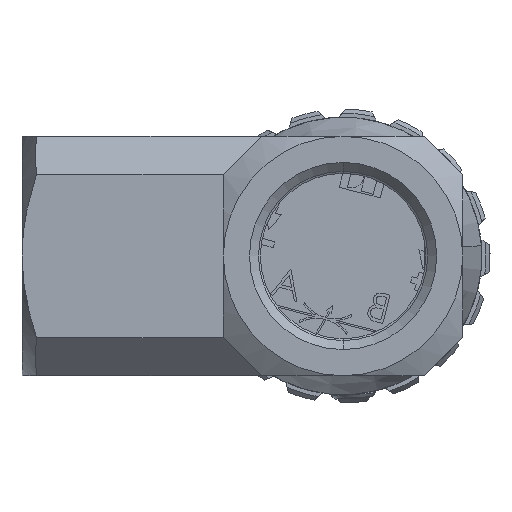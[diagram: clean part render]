
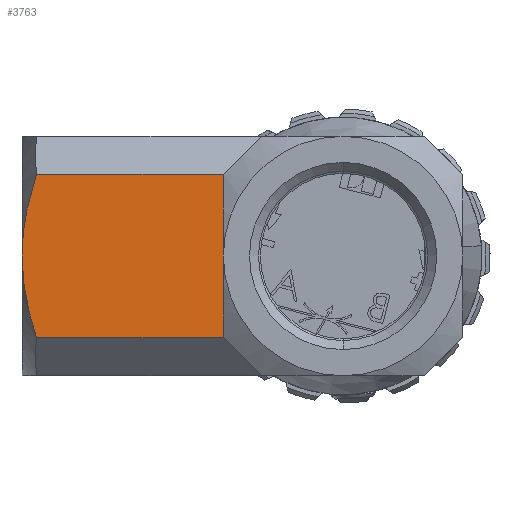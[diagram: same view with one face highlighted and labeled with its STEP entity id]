
A CAD part, front view. The second image highlights one B-rep face of the part: STEP entity #3763.
In plain terms, the highlighted planar face has unit normal (0, -1, 0).
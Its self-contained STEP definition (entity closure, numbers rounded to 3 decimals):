
#57 = DIRECTION ( 'NONE',  ( 0., 0., -1. ) ) ;
#447 = EDGE_LOOP ( 'NONE', ( #30491, #30417, #12335, #15266, #19699 ) ) ;
#1492 = B_SPLINE_CURVE_WITH_KNOTS ( 'NONE', 3,
 ( #26756, #31804, #18980, #11302, #29336, #13852, #31916, #16439 ),
 .UNSPECIFIED., .F., .F.,
 ( 4, 2, 2, 4 ),
 ( 0.028, 0.032, 0.034, 0.036 ),
 .UNSPECIFIED. ) ;
#1811 = CARTESIAN_POINT ( 'NONE',  ( -29.5, -11., 0. ) ) ;
#2551 = AXIS2_PLACEMENT_3D ( 'NONE', #11150, #29197, #13716 ) ;
#3000 = EDGE_CURVE ( 'NONE', #10712, #27323, #1492, .T. ) ;
#3763 = ADVANCED_FACE ( 'NONE', ( #21842 ), #29089, .T. ) ;
#5508 = CARTESIAN_POINT ( 'NONE',  ( -29.5, -11., 7.5 ) ) ;
#5735 = EDGE_CURVE ( 'NONE', #12065, #25434, #16189, .T. ) ;
#5776 = CARTESIAN_POINT ( 'NONE',  ( -11., -11., -7.5 ) ) ;
#7015 = CARTESIAN_POINT ( 'NONE',  ( -11., -11., 7.5 ) ) ;
#8670 = B_SPLINE_CURVE_WITH_KNOTS ( 'NONE', 3,
 ( #1811, #17254, #25104, #9618, #27653, #12214 ),
 .UNSPECIFIED., .F., .F.,
 ( 4, 2, 4 ),
 ( 0.036, 0.04, 0.043 ),
 .UNSPECIFIED. ) ;
#9618 = CARTESIAN_POINT ( 'NONE',  ( -28.898, -11., -5.043 ) ) ;
#10712 = VERTEX_POINT ( 'NONE', #18321 ) ;
#11150 = CARTESIAN_POINT ( 'NONE',  ( -29.5, -11., 11. ) ) ;
#11302 = CARTESIAN_POINT ( 'NONE',  ( -29.248, -11., 3.185 ) ) ;
#12065 = VERTEX_POINT ( 'NONE', #7015 ) ;
#12214 = CARTESIAN_POINT ( 'NONE',  ( -28.164, -11., -7.5 ) ) ;
#12335 = ORIENTED_EDGE ( 'NONE', *, *, #31970, .T. ) ;
#13716 = DIRECTION ( 'NONE',  ( 0., 0., -1. ) ) ;
#13852 = CARTESIAN_POINT ( 'NONE',  ( -29.467, -11., 1.283 ) ) ;
#15266 = ORIENTED_EDGE ( 'NONE', *, *, #21894, .T. ) ;
#15305 = VERTEX_POINT ( 'NONE', #24106 ) ;
#16189 = LINE ( 'NONE', #18014, #23114 ) ;
#16439 = CARTESIAN_POINT ( 'NONE',  ( -29.5, -11., 0. ) ) ;
#17254 = CARTESIAN_POINT ( 'NONE',  ( -29.5, -11., -1.278 ) ) ;
#18014 = CARTESIAN_POINT ( 'NONE',  ( -11., -11., -11. ) ) ;
#18321 = CARTESIAN_POINT ( 'NONE',  ( -28.164, -11., 7.5 ) ) ;
#18980 = CARTESIAN_POINT ( 'NONE',  ( -28.894, -11., 5.058 ) ) ;
#19699 = ORIENTED_EDGE ( 'NONE', *, *, #5735, .F. ) ;
#21842 = FACE_OUTER_BOUND ( 'NONE', #447, .T. ) ;
#21894 = EDGE_CURVE ( 'NONE', #15305, #25434, #25643, .T. ) ;
#21963 = VECTOR ( 'NONE', #26114, 1000. ) ;
#23114 = VECTOR ( 'NONE', #57, 1000. ) ;
#24106 = CARTESIAN_POINT ( 'NONE',  ( -28.164, -11., -7.5 ) ) ;
#25104 = CARTESIAN_POINT ( 'NONE',  ( -29.369, -11., -2.541 ) ) ;
#25434 = VERTEX_POINT ( 'NONE', #30007 ) ;
#25643 = LINE ( 'NONE', #5776, #31644 ) ;
#26114 = DIRECTION ( 'NONE',  ( -1., 0., 0. ) ) ;
#26380 = DIRECTION ( 'NONE',  ( 1., 0., 0. ) ) ;
#26756 = CARTESIAN_POINT ( 'NONE',  ( -28.164, -11., 7.5 ) ) ;
#27323 = VERTEX_POINT ( 'NONE', #30071 ) ;
#27653 = CARTESIAN_POINT ( 'NONE',  ( -28.559, -11., -6.287 ) ) ;
#29089 = PLANE ( 'NONE',  #2551 ) ;
#29197 = DIRECTION ( 'NONE',  ( 0., -1., 0. ) ) ;
#29336 = CARTESIAN_POINT ( 'NONE',  ( -29.341, -11., 2.555 ) ) ;
#29594 = LINE ( 'NONE', #5508, #21963 ) ;
#29993 = EDGE_CURVE ( 'NONE', #12065, #10712, #29594, .T. ) ;
#30007 = CARTESIAN_POINT ( 'NONE',  ( -11., -11., -7.5 ) ) ;
#30071 = CARTESIAN_POINT ( 'NONE',  ( -29.5, -11., 0. ) ) ;
#30417 = ORIENTED_EDGE ( 'NONE', *, *, #3000, .T. ) ;
#30491 = ORIENTED_EDGE ( 'NONE', *, *, #29993, .T. ) ;
#31644 = VECTOR ( 'NONE', #26380, 1000. ) ;
#31804 = CARTESIAN_POINT ( 'NONE',  ( -28.559, -11., 6.285 ) ) ;
#31916 = CARTESIAN_POINT ( 'NONE',  ( -29.5, -11., 0.638 ) ) ;
#31970 = EDGE_CURVE ( 'NONE', #27323, #15305, #8670, .T. ) ;
